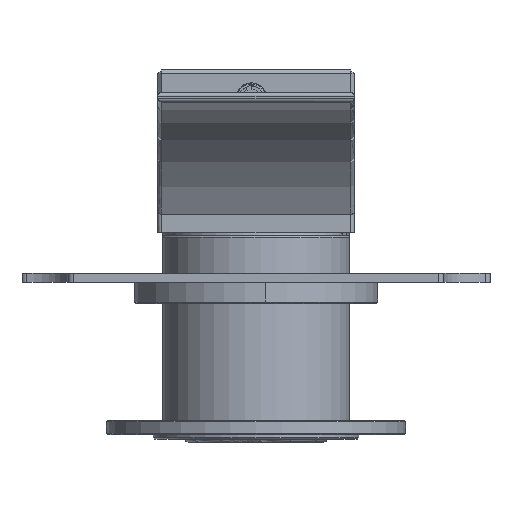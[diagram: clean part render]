
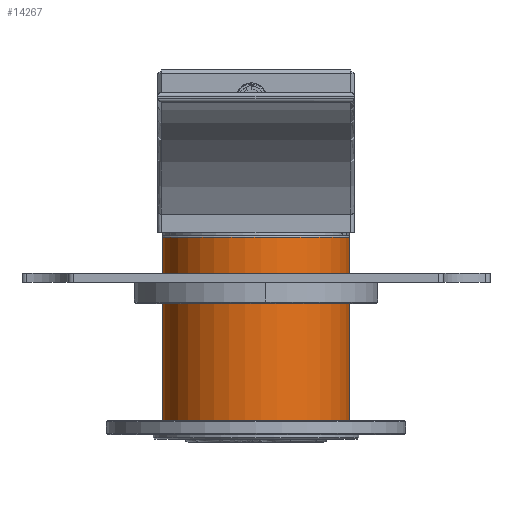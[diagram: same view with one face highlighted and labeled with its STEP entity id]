
A CAD part, front view. The second image highlights one B-rep face of the part: STEP entity #14267.
In plain terms, the highlighted cylindrical face has radius 20 mm (diameter 40 mm), a partial arc.
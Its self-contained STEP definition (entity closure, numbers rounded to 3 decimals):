
#1336 = AXIS2_PLACEMENT_3D ( 'NONE', #16432, #3255, #14135 ) ;
#1904 = FACE_OUTER_BOUND ( 'NONE', #25749, .T. ) ;
#2319 = CIRCLE ( 'NONE', #19353, 20. ) ;
#3255 = DIRECTION ( 'NONE',  ( 0., 0., 1. ) ) ;
#3493 = DIRECTION ( 'NONE',  ( -1., 0., 0. ) ) ;
#4579 = VECTOR ( 'NONE', #9535, 1000. ) ;
#4948 = EDGE_CURVE ( 'NONE', #18759, #15409, #26777, .T. ) ;
#5435 = EDGE_CURVE ( 'NONE', #6540, #16132, #24384, .T. ) ;
#5878 = DIRECTION ( 'NONE',  ( 0., 0., -1. ) ) ;
#6540 = VERTEX_POINT ( 'NONE', #25297 ) ;
#6757 = CARTESIAN_POINT ( 'NONE',  ( 20., 0., 3.3 ) ) ;
#7340 = CARTESIAN_POINT ( 'NONE',  ( 20., 0., 42.5 ) ) ;
#7883 = DIRECTION ( 'NONE',  ( 0., 0., 1. ) ) ;
#7887 = CARTESIAN_POINT ( 'NONE',  ( 20., 0., 42.5 ) ) ;
#9535 = DIRECTION ( 'NONE',  ( 0., 0., -1. ) ) ;
#10557 = DIRECTION ( 'NONE',  ( -1., 0., 0. ) ) ;
#10875 = ORIENTED_EDGE ( 'NONE', *, *, #25956, .F. ) ;
#11507 = DIRECTION ( 'NONE',  ( 0., 0., -1. ) ) ;
#11614 = ORIENTED_EDGE ( 'NONE', *, *, #4948, .F. ) ;
#13089 = EDGE_CURVE ( 'NONE', #16132, #15409, #2319, .T. ) ;
#14135 = DIRECTION ( 'NONE',  ( 1., 0., 0. ) ) ;
#14267 = ADVANCED_FACE ( 'NONE', ( #1904 ), #22431, .T. ) ;
#14449 = CARTESIAN_POINT ( 'NONE',  ( 0., 0., 42.5 ) ) ;
#15409 = VERTEX_POINT ( 'NONE', #6757 ) ;
#15776 = CARTESIAN_POINT ( 'NONE',  ( -20., 0., 3.3 ) ) ;
#16132 = VERTEX_POINT ( 'NONE', #15776 ) ;
#16432 = CARTESIAN_POINT ( 'NONE',  ( 0., 0., 42.5 ) ) ;
#18759 = VERTEX_POINT ( 'NONE', #7887 ) ;
#19353 = AXIS2_PLACEMENT_3D ( 'NONE', #25287, #7883, #3493 ) ;
#21138 = ORIENTED_EDGE ( 'NONE', *, *, #5435, .T. ) ;
#22027 = AXIS2_PLACEMENT_3D ( 'NONE', #14449, #11507, #10557 ) ;
#22431 = CYLINDRICAL_SURFACE ( 'NONE', #22027, 20. ) ;
#23555 = CARTESIAN_POINT ( 'NONE',  ( -20., 0., 42.5 ) ) ;
#24384 = LINE ( 'NONE', #23555, #28131 ) ;
#25151 = CIRCLE ( 'NONE', #1336, 20. ) ;
#25287 = CARTESIAN_POINT ( 'NONE',  ( 0., 0., 3.3 ) ) ;
#25297 = CARTESIAN_POINT ( 'NONE',  ( -20., 0., 42.5 ) ) ;
#25749 = EDGE_LOOP ( 'NONE', ( #11614, #10875, #21138, #25847 ) ) ;
#25847 = ORIENTED_EDGE ( 'NONE', *, *, #13089, .T. ) ;
#25956 = EDGE_CURVE ( 'NONE', #6540, #18759, #25151, .T. ) ;
#26777 = LINE ( 'NONE', #7340, #4579 ) ;
#28131 = VECTOR ( 'NONE', #5878, 1000. ) ;
